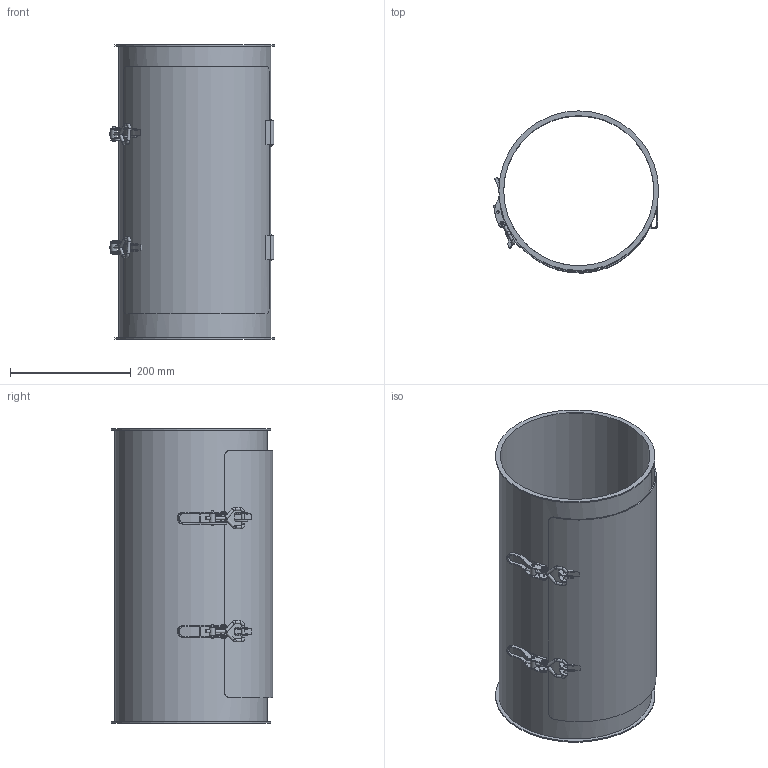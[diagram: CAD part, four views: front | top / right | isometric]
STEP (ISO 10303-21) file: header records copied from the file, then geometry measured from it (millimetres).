
FILE_DESCRIPTION((''),'2;1');
FILE_NAME('U:\Wolfgang\Marcel-3D\fertig\Kapitel 4\2521142.stp','2011-04-21T08:27:02',('TK1'),(''),'Autodesk Inventor 2010','Autodesk Inventor 2010','');
FILE_SCHEMA(('AUTOMOTIVE_DESIGN { 1 0 10303 214 1 1 1 1 }'));
Length unit declared in the file: millimetre
Products named in the file (14): 2521142; 2521142-Rohr; Verschluss2521142; Verschluss25a; Verschluss1b; Verschluss1c; Verschluss1d; Verschluss1e; Gelenk25; Deckel25; 2521142 Halterung2; 2521142 verschluss; 2521142-Deckel; 2521142 Halterung3
Assembly tree (18 placements, depth 3):
  2521142
    2521142-Rohr
    Verschluss2521142  x2
      Verschluss25a
      Verschluss1b
      Verschluss1c
      Verschluss1d
      Verschluss1e
    Gelenk25
    Deckel25
      2521142 Halterung2  x2
      2521142 verschluss  x2
      2521142-Deckel
    2521142 Halterung3  x2
Bounding box: 274.15 x 268.58 x 488 mm (x, y, z)
Volume: 902281.2 mm3; surface area: 914364.3 mm2
Topology: 21 solids, 21 shells, 323 faces, 770 edges, 497 vertices
Faces by surface type: plane 150, cylinder 144, torus 18, bspline 7, sphere 4
Full cylindrical faces by diameter (mm): 2 x8, 4 x8, 5 x12, 6 x11, 6.2 x4, 10 x2, 249 x1, 253 x1, 265 x2
Entity records: 5641 total; most frequent: CARTESIAN_POINT 1143, DIRECTION 920, ORIENTED_EDGE 770, EDGE_CURVE 385, AXIS2_PLACEMENT_3D 355, VERTEX_POINT 270, EDGE_LOOP 243, VECTOR 210
